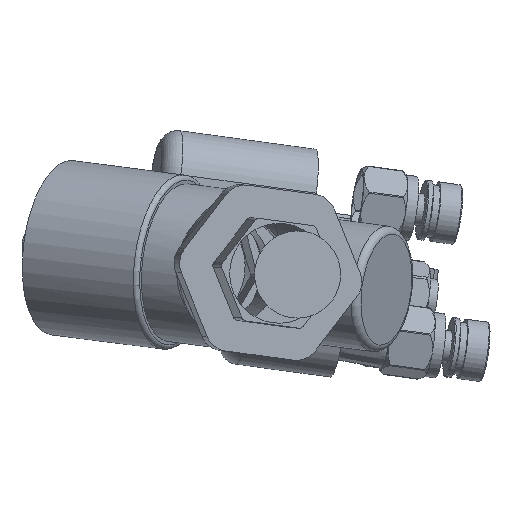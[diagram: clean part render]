
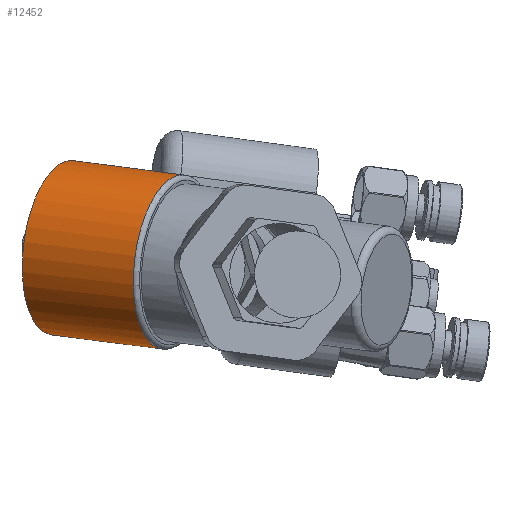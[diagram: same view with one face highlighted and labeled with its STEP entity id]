
A CAD part, front view. The second image highlights one B-rep face of the part: STEP entity #12452.
In plain terms, the highlighted cylindrical face has radius 18.536 mm (diameter 37.073 mm), a full revolution.
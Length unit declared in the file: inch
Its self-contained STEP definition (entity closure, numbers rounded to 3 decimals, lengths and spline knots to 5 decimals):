
#197=ELLIPSE('',#13108,1.27339,0.72978);
#200=ELLIPSE('',#13113,0.89089,0.72978);
#969=FACE_OUTER_BOUND('',#1655,.T.);
#1655=EDGE_LOOP('',(#9015,#9016,#9017,#9018,#9019,#9020,#9021,#9022,#9023,
#9024,#9025,#9026));
#2330=LINE('',#18621,#3288);
#2436=LINE('',#19323,#3394);
#3288=VECTOR('',#14198,0.3937);
#3394=VECTOR('',#14590,0.72978);
#4203=B_SPLINE_CURVE_WITH_KNOTS('',3,(#18587,#18588,#18589,#18590,#18591,
#18592,#18593,#18594,#18595,#18596,#18597,#18598),.UNSPECIFIED.,.F.,.F.,
(4,2,2,2,2,4),(1.7547,1.78476,1.93163,2.08607,
2.24858,2.34226),.UNSPECIFIED.);
#4204=B_SPLINE_CURVE_WITH_KNOTS('',3,(#18604,#18605,#18606,#18607,#18608,
#18609,#18610,#18611,#18612,#18613),.UNSPECIFIED.,.F.,.F.,(4,2,2,2,4),(1.86441,
2.08035,2.3482,2.61606,2.82013),
 .UNSPECIFIED.);
#4208=B_SPLINE_CURVE_WITH_KNOTS('',3,(#18685,#18686,#18687,#18688,#18689,
#18690,#18691,#18692,#18693,#18694,#18695,#18696),.UNSPECIFIED.,.F.,.F.,
(4,2,2,2,2,4),(0.56075,0.67142,1.34283,1.81454,
2.05039,2.28625),.UNSPECIFIED.);
#4211=B_SPLINE_CURVE_WITH_KNOTS('',3,(#18716,#18717,#18718,#18719),
 .UNSPECIFIED.,.F.,.F.,(4,4),(2.28625,2.3508),
 .UNSPECIFIED.);
#4707=CIRCLE('',#13243,0.72978);
#4708=CIRCLE('',#13244,0.72978);
#4709=CIRCLE('',#13246,0.72978);
#5081=VERTEX_POINT('',#18567);
#5085=VERTEX_POINT('',#18585);
#5087=VERTEX_POINT('',#18601);
#5088=VERTEX_POINT('',#18603);
#5090=VERTEX_POINT('',#18619);
#5095=VERTEX_POINT('',#18635);
#5103=VERTEX_POINT('',#18671);
#5104=VERTEX_POINT('',#18684);
#5228=VERTEX_POINT('',#19318);
#5229=VERTEX_POINT('',#19322);
#6411=EDGE_CURVE('',#5085,#5081,#4203,.F.);
#6413=EDGE_CURVE('',#5088,#5087,#4204,.T.);
#6418=EDGE_CURVE('',#5087,#5090,#2330,.T.);
#6425=EDGE_CURVE('',#5095,#5081,#197,.T.);
#6434=EDGE_CURVE('',#5085,#5088,#200,.T.);
#6438=EDGE_CURVE('',#5103,#5104,#4208,.T.);
#6444=EDGE_CURVE('',#5104,#5090,#4211,.T.);
#6629=EDGE_CURVE('',#5095,#5228,#4707,.T.);
#6630=EDGE_CURVE('',#5228,#5103,#4708,.T.);
#6631=EDGE_CURVE('',#5228,#5229,#2436,.T.);
#6632=EDGE_CURVE('',#5229,#5229,#4709,.T.);
#9015=ORIENTED_EDGE('',*,*,#6418,.T.);
#9016=ORIENTED_EDGE('',*,*,#6444,.F.);
#9017=ORIENTED_EDGE('',*,*,#6438,.F.);
#9018=ORIENTED_EDGE('',*,*,#6630,.F.);
#9019=ORIENTED_EDGE('',*,*,#6631,.T.);
#9020=ORIENTED_EDGE('',*,*,#6632,.T.);
#9021=ORIENTED_EDGE('',*,*,#6631,.F.);
#9022=ORIENTED_EDGE('',*,*,#6629,.F.);
#9023=ORIENTED_EDGE('',*,*,#6425,.T.);
#9024=ORIENTED_EDGE('',*,*,#6411,.F.);
#9025=ORIENTED_EDGE('',*,*,#6434,.T.);
#9026=ORIENTED_EDGE('',*,*,#6413,.T.);
#11499=CYLINDRICAL_SURFACE('',#13245,0.72978);
#12452=ADVANCED_FACE('',(#969),#11499,.T.);
#13108=AXIS2_PLACEMENT_3D('',#18636,#14213,#14214);
#13113=AXIS2_PLACEMENT_3D('',#18661,#14228,#14229);
#13243=AXIS2_PLACEMENT_3D('',#19319,#14584,#14585);
#13244=AXIS2_PLACEMENT_3D('',#19320,#14586,#14587);
#13245=AXIS2_PLACEMENT_3D('',#19321,#14588,#14589);
#13246=AXIS2_PLACEMENT_3D('',#19324,#14591,#14592);
#14198=DIRECTION('',(0.89,-0.441,-0.115));
#14213=DIRECTION('center_axis',(0.148,-0.988,-0.051));
#14214=DIRECTION('ref_axis',(0.983,0.153,-0.105));
#14228=DIRECTION('center_axis',(-0.979,-0.154,0.133));
#14229=DIRECTION('ref_axis',(-0.154,0.988,0.01));
#14584=DIRECTION('center_axis',(0.89,-0.441,-0.115));
#14585=DIRECTION('ref_axis',(-0.435,-0.898,0.068));
#14586=DIRECTION('center_axis',(0.89,-0.441,-0.115));
#14587=DIRECTION('ref_axis',(-0.435,-0.898,0.068));
#14588=DIRECTION('center_axis',(0.89,-0.441,-0.115));
#14589=DIRECTION('ref_axis',(0.435,0.898,-0.068));
#14590=DIRECTION('',(-0.89,0.441,0.115));
#14591=DIRECTION('center_axis',(0.89,-0.441,-0.115));
#14592=DIRECTION('ref_axis',(0.435,0.898,-0.068));
#18567=CARTESIAN_POINT('',(1.96953,1.17797,-3.19933));
#18585=CARTESIAN_POINT('',(1.81581,1.30601,-3.1951));
#18587=CARTESIAN_POINT('Ctrl Pts',(1.96953,1.17797,-3.19933));
#18588=CARTESIAN_POINT('Ctrl Pts',(1.96573,1.17785,-3.19831));
#18589=CARTESIAN_POINT('Ctrl Pts',(1.96193,1.17787,-3.19733));
#18590=CARTESIAN_POINT('Ctrl Pts',(1.9396,1.17893,-3.19187));
#18591=CARTESIAN_POINT('Ctrl Pts',(1.92156,1.18343,-3.18851));
#18592=CARTESIAN_POINT('Ctrl Pts',(1.88754,1.19879,-3.18376));
#18593=CARTESIAN_POINT('Ctrl Pts',(1.87204,1.20982,-3.18254));
#18594=CARTESIAN_POINT('Ctrl Pts',(1.84537,1.2369,-3.18261));
#18595=CARTESIAN_POINT('Ctrl Pts',(1.83479,1.25283,-3.18404));
#18596=CARTESIAN_POINT('Ctrl Pts',(1.82288,1.27949,-3.1886));
#18597=CARTESIAN_POINT('Ctrl Pts',(1.81862,1.29161,-3.19109));
#18598=CARTESIAN_POINT('Ctrl Pts',(1.81581,1.30601,-3.1951));
#18601=CARTESIAN_POINT('',(1.68362,1.8636,-3.85241));
#18603=CARTESIAN_POINT('',(1.70539,1.75585,-3.487));
#18604=CARTESIAN_POINT('Ctrl Pts',(1.70539,1.75585,-3.487));
#18605=CARTESIAN_POINT('Ctrl Pts',(1.69977,1.77261,-3.50896));
#18606=CARTESIAN_POINT('Ctrl Pts',(1.69707,1.78718,-3.53319));
#18607=CARTESIAN_POINT('Ctrl Pts',(1.69354,1.8154,-3.59097));
#18608=CARTESIAN_POINT('Ctrl Pts',(1.69338,1.82792,-3.62538));
#18609=CARTESIAN_POINT('Ctrl Pts',(1.6927,1.84718,-3.69654));
#18610=CARTESIAN_POINT('Ctrl Pts',(1.69217,1.85392,-3.73328));
#18611=CARTESIAN_POINT('Ctrl Pts',(1.68887,1.86135,-3.79766));
#18612=CARTESIAN_POINT('Ctrl Pts',(1.68667,1.86311,-3.82539));
#18613=CARTESIAN_POINT('Ctrl Pts',(1.68362,1.8636,-3.85241));
#18619=CARTESIAN_POINT('',(1.83229,1.79003,-3.87161));
#18621=CARTESIAN_POINT('',(1.80587,1.80311,-3.8682));
#18635=CARTESIAN_POINT('',(2.14894,1.20827,-3.26405));
#18636=CARTESIAN_POINT('Origin',(1.50004,1.14067,-3.84576));
#18661=CARTESIAN_POINT('Origin',(1.76964,1.00726,-3.88056));
#18671=CARTESIAN_POINT('',(2.12407,1.44786,-4.37514));
#18684=CARTESIAN_POINT('',(1.8281,1.79067,-3.89659));
#18685=CARTESIAN_POINT('Ctrl Pts',(2.12407,1.44786,-4.37514));
#18686=CARTESIAN_POINT('Ctrl Pts',(2.11285,1.45704,-4.36972));
#18687=CARTESIAN_POINT('Ctrl Pts',(2.10185,1.46636,-4.36398));
#18688=CARTESIAN_POINT('Ctrl Pts',(2.02565,1.53282,-4.32129));
#18689=CARTESIAN_POINT('Ctrl Pts',(1.96845,1.59292,-4.27345));
#18690=CARTESIAN_POINT('Ctrl Pts',(1.89265,1.68079,-4.17838));
#18691=CARTESIAN_POINT('Ctrl Pts',(1.8636,1.71788,-4.12956));
#18692=CARTESIAN_POINT('Ctrl Pts',(1.83625,1.75896,-4.04697));
#18693=CARTESIAN_POINT('Ctrl Pts',(1.82978,1.77026,-4.01787));
#18694=CARTESIAN_POINT('Ctrl Pts',(1.82364,1.78596,-3.95802));
#18695=CARTESIAN_POINT('Ctrl Pts',(1.82398,1.79035,-3.92727));
#18696=CARTESIAN_POINT('Ctrl Pts',(1.8281,1.79067,-3.89659));
#18716=CARTESIAN_POINT('Ctrl Pts',(1.8281,1.79067,-3.89659));
#18717=CARTESIAN_POINT('Ctrl Pts',(1.82922,1.79076,-3.8882));
#18718=CARTESIAN_POINT('Ctrl Pts',(1.83062,1.79054,-3.87986));
#18719=CARTESIAN_POINT('Ctrl Pts',(1.83229,1.79003,-3.87161));
#19318=CARTESIAN_POINT('',(1.61061,0.27362,-3.85154));
#19319=CARTESIAN_POINT('Origin',(1.92838,0.92871,-3.90105));
#19320=CARTESIAN_POINT('Origin',(1.92838,0.92871,-3.90105));
#19321=CARTESIAN_POINT('Origin',(1.48493,1.14815,-3.84381));
#19322=CARTESIAN_POINT('',(0.68809,0.73011,-3.73245));
#19323=CARTESIAN_POINT('',(1.16716,0.49305,-3.7943));
#19324=CARTESIAN_POINT('Origin',(1.00586,1.3852,-3.78196));
